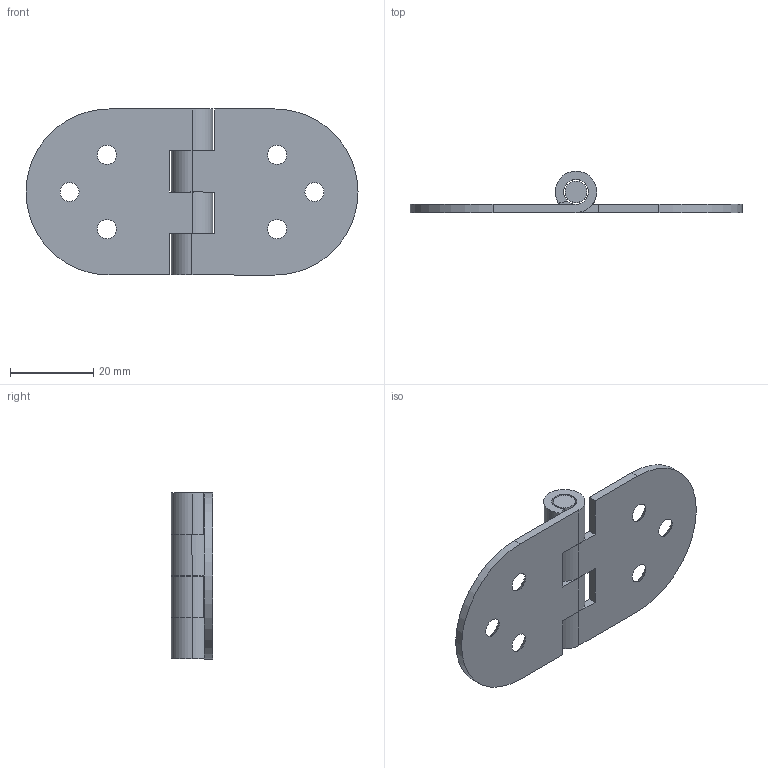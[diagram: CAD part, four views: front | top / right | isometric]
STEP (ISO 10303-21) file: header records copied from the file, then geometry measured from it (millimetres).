
FILE_DESCRIPTION (( 'STEP AP203' ), '1' );
FILE_NAME ('XG02-087-3.STEP', '2023-12-21T08:48:30', ( '' ), ( '' ), 'SwSTEP 2.0', 'SolidWorks 2020', '' );
FILE_SCHEMA (( 'CONFIG_CONTROL_DESIGN' ));
Length unit declared in the file: millimetre
Products named in the file (3): XG02-087-3; 錨璃2; 2
Assembly tree (3 placements, depth 2):
  XG02-087-3
    2  x2
    錨璃2
Bounding box: 80 x 10 x 40 mm (x, y, z)
Volume: 7381.1 mm3; surface area: 8534.1 mm2
Topology: 3 solids, 3 shells, 64 faces, 174 edges, 116 vertices
Faces by surface type: cylinder 28, plane 24, cone 12
Entity records: 1425 total; most frequent: DIRECTION 212, CARTESIAN_POINT 190, ORIENTED_EDGE 180, EDGE_CURVE 90, AXIS2_PLACEMENT_3D 82, VERTEX_POINT 60, LINE 48, VECTOR 48
